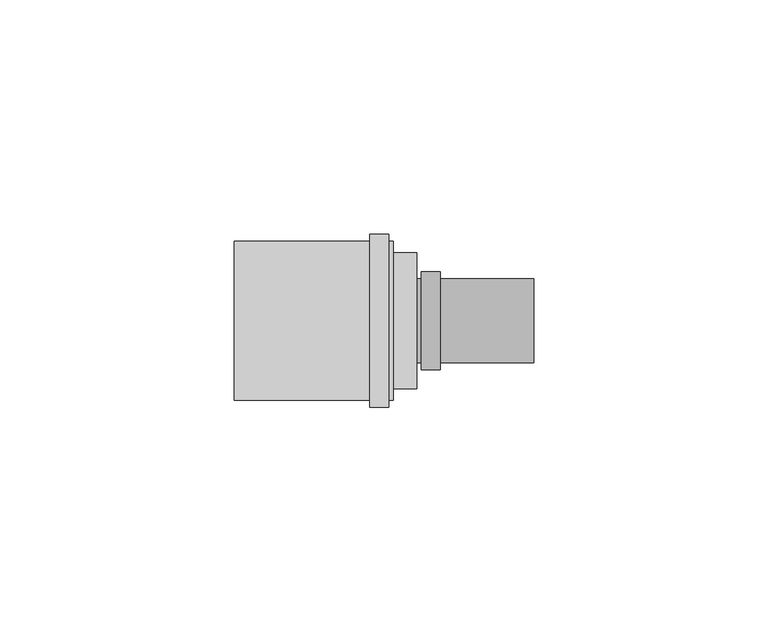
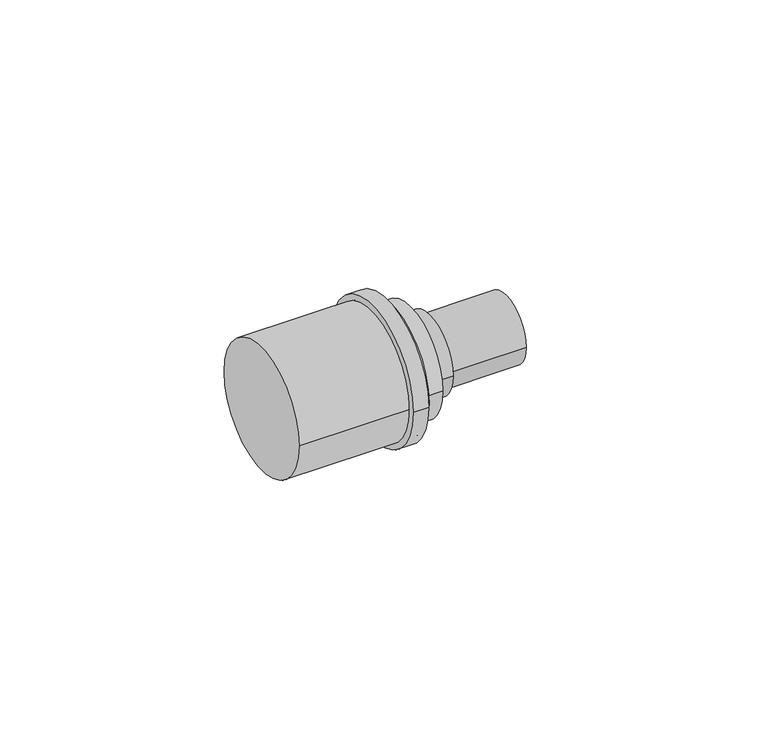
"""IFC4 building model written with IfcOpenShell, lengths in millimetres: pipe fitting geometry, COMAP - SKINPRESS ppsu - Manchon_Réduit_9240W : Manchon_Réduit_9240W."""

from ifc_helpers import new_model, si_unit, point, frame, origin, origin_2d, place, context, project, spatial, circle_curve, trimmed, segment, composite_curve, outline, extrude, source, transform, mapped, element, save


def pipe_fitting_e42a125b(model_context):
    return source(origin(), model_context, "Body", "SweptSolid", [
        extrude(outline(composite_curve([segment(trimmed(circle_curve(origin_2d(), 18.5), [point((-18.5, 0.0))], [point((18.5, 0.0))], False, "CARTESIAN"), True, "CONTINUOUS"), segment(trimmed(circle_curve(origin_2d(), 18.5), [point((18.5, 0.0))], [point((-18.5, 0.0))], False, "CARTESIAN"), True, "CONTINUOUS")], self_intersect=False)), frame((-5.0, 0.0, 0.0), z_axis=(1.0, 0.0, 0.0), x_axis=(0.0, 1.0, 0.0)), (0.0, 0.0, 1.0), 4.0),
        extrude(outline(composite_curve([segment(trimmed(circle_curve(origin_2d(), 17.0), [point((-17.0, 0.0))], [point((17.0, 0.0))], False, "CARTESIAN"), True, "CONTINUOUS"), segment(trimmed(circle_curve(origin_2d(), 17.0), [point((17.0, 0.0))], [point((-17.0, 0.0))], False, "CARTESIAN"), True, "CONTINUOUS")], self_intersect=False)), frame((-34.0, 0.0, 0.0), z_axis=(1.0, 0.0, 0.0), x_axis=(0.0, 1.0, 0.0)), (0.0, 0.0, 1.0), 34.0),
        extrude(outline(composite_curve([segment(trimmed(circle_curve(origin_2d(), 10.5), [point((10.5, 0.0))], [point((-10.5, 0.0))], False, "CARTESIAN"), True, "CONTINUOUS"), segment(trimmed(circle_curve(origin_2d(), 10.5), [point((-10.5, 0.0))], [point((10.5, 0.0))], False, "CARTESIAN"), True, "CONTINUOUS")], self_intersect=False)), frame((6.0, 0.0, 0.0), z_axis=(1.0, 0.0, 0.0), x_axis=(0.0, 1.0, 0.0)), (0.0, 0.0, 1.0), 4.0),
        extrude(outline(composite_curve([segment(trimmed(circle_curve(origin_2d(), 9.0), [point((9.0, 0.0))], [point((-9.0, 0.0))], False, "CARTESIAN"), True, "CONTINUOUS"), segment(trimmed(circle_curve(origin_2d(), 9.0), [point((-9.0, 0.0))], [point((9.0, 0.0))], False, "CARTESIAN"), True, "CONTINUOUS")], self_intersect=False)), frame((5.0, 0.0, 0.0), z_axis=(1.0, 0.0, 0.0), x_axis=(0.0, 1.0, 0.0)), (0.0, 0.0, 1.0), 25.0),
        extrude(outline(composite_curve([segment(trimmed(circle_curve(origin_2d(), 14.5), [point((-14.5, 0.0))], [point((14.5, 0.0))], False, "CARTESIAN"), True, "CONTINUOUS"), segment(trimmed(circle_curve(origin_2d(), 14.5), [point((14.5, 0.0))], [point((-14.5, 0.0))], False, "CARTESIAN"), True, "CONTINUOUS")], self_intersect=False)), frame((0.0, 0.0, 0.0), z_axis=(1.0, 0.0, 0.0), x_axis=(0.0, 1.0, 0.0)), (0.0, 0.0, 1.0), 5.0),
    ])


if __name__ == "__main__":
    model = new_model("IFC4")
    model_context = context("Model", 3, world=origin())
    ifc_project = project(units=[si_unit("LENGTHUNIT", "METRE", prefix="MILLI")], contexts=[model_context])
    site = spatial("IfcSite", under=ifc_project)
    building = spatial("IfcBuilding", under=site)
    placement = place(None, origin())
    pipe_fitting_shape = pipe_fitting_e42a125b(model_context)
    element("IfcPipeFitting", 1, ObjectType="COMAP - SKINPRESS ppsu - Manchon_Réduit_9240W : Manchon_Réduit_9240W", at=placement, inside=building, context=model_context, shape_type="MappedRepresentation", body=[
        mapped(pipe_fitting_shape, transform((0.0, 0.0, 0.0), x_axis=(1.0, 0.0, 0.0), y_axis=(0.0, 1.0, 0.0), z_axis=(0.0, 0.0, 1.0))),
    ])
    save(model, "model.ifc")
